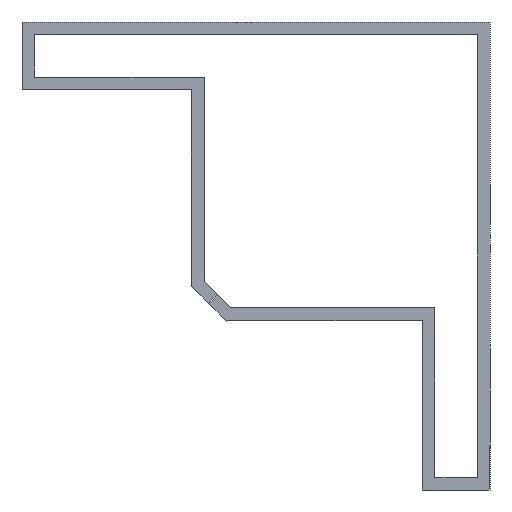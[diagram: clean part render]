
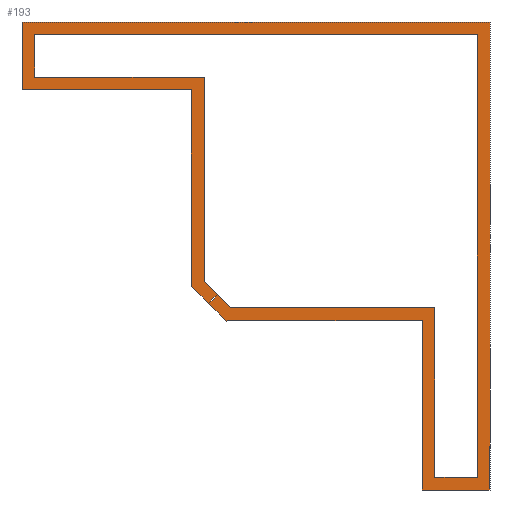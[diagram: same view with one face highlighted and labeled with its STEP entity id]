
A CAD part, front view. The second image highlights one B-rep face of the part: STEP entity #193.
In plain terms, the highlighted planar face has unit normal (0, -1, 0).
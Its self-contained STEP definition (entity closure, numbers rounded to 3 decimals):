
#86 = EDGE_CURVE('',#87,#89,#91,.T.);
#87 = VERTEX_POINT('',#88);
#88 = CARTESIAN_POINT('',(-31.7,0.,-28.081));
#89 = VERTEX_POINT('',#90);
#90 = CARTESIAN_POINT('',(-31.7,0.,-7.2));
#91 = LINE('',#92,#93);
#92 = CARTESIAN_POINT('',(-31.7,0.,-28.081));
#93 = VECTOR('',#94,1.);
#94 = DIRECTION('',(0.,0.,1.));
#141 = VERTEX_POINT('',#142);
#142 = CARTESIAN_POINT('',(-30.35,0.,-27.522));
#159 = VERTEX_POINT('',#160);
#160 = CARTESIAN_POINT('',(-30.35,0.,-5.85));
#166 = EDGE_CURVE('',#159,#141,#167,.T.);
#167 = LINE('',#168,#169);
#168 = CARTESIAN_POINT('',(-30.35,0.,-5.85));
#169 = VECTOR('',#170,1.);
#170 = DIRECTION('',(0.,0.,-1.));
#193 = ADVANCED_FACE('',(#194),#362,.T.);
#194 = FACE_BOUND('',#195,.T.);
#195 = EDGE_LOOP('',(#196,#206,#212,#213,#221,#229,#237,#245,#253,#261,
    #269,#277,#285,#293,#301,#309,#317,#325,#333,#341,#349,#355,#356));
#196 = ORIENTED_EDGE('',*,*,#197,.F.);
#197 = EDGE_CURVE('',#198,#200,#202,.T.);
#198 = VERTEX_POINT('',#199);
#199 = CARTESIAN_POINT('',(-28.953,0.,-28.918));
#200 = VERTEX_POINT('',#201);
#201 = CARTESIAN_POINT('',(-29.908,0.,-29.873));
#202 = LINE('',#203,#204);
#203 = CARTESIAN_POINT('',(-29.908,0.,-29.873));
#204 = VECTOR('',#205,1.);
#205 = DIRECTION('',(-0.707,-0.,-0.707));
#206 = ORIENTED_EDGE('',*,*,#207,.T.);
#207 = EDGE_CURVE('',#198,#141,#208,.T.);
#208 = LINE('',#209,#210);
#209 = CARTESIAN_POINT('',(-28.953,0.,-28.918));
#210 = VECTOR('',#211,1.);
#211 = DIRECTION('',(-0.707,0.,0.707));
#212 = ORIENTED_EDGE('',*,*,#166,.F.);
#213 = ORIENTED_EDGE('',*,*,#214,.T.);
#214 = EDGE_CURVE('',#159,#215,#217,.T.);
#215 = VERTEX_POINT('',#216);
#216 = CARTESIAN_POINT('',(-48.35,0.,-5.85));
#217 = LINE('',#218,#219);
#218 = CARTESIAN_POINT('',(-30.35,0.,-5.85));
#219 = VECTOR('',#220,1.);
#220 = DIRECTION('',(-1.,0.,0.));
#221 = ORIENTED_EDGE('',*,*,#222,.T.);
#222 = EDGE_CURVE('',#215,#223,#225,.T.);
#223 = VERTEX_POINT('',#224);
#224 = CARTESIAN_POINT('',(-48.35,0.,-1.35));
#225 = LINE('',#226,#227);
#226 = CARTESIAN_POINT('',(-48.35,0.,-5.85));
#227 = VECTOR('',#228,1.);
#228 = DIRECTION('',(0.,0.,1.));
#229 = ORIENTED_EDGE('',*,*,#230,.T.);
#230 = EDGE_CURVE('',#223,#231,#233,.T.);
#231 = VERTEX_POINT('',#232);
#232 = CARTESIAN_POINT('',(-1.35,0.,-1.35));
#233 = LINE('',#234,#235);
#234 = CARTESIAN_POINT('',(-48.35,0.,-1.35));
#235 = VECTOR('',#236,1.);
#236 = DIRECTION('',(1.,0.,0.));
#237 = ORIENTED_EDGE('',*,*,#238,.T.);
#238 = EDGE_CURVE('',#231,#239,#241,.T.);
#239 = VERTEX_POINT('',#240);
#240 = CARTESIAN_POINT('',(-1.35,0.,-48.35));
#241 = LINE('',#242,#243);
#242 = CARTESIAN_POINT('',(-1.35,0.,-1.35));
#243 = VECTOR('',#244,1.);
#244 = DIRECTION('',(0.,0.,-1.));
#245 = ORIENTED_EDGE('',*,*,#246,.T.);
#246 = EDGE_CURVE('',#239,#247,#249,.T.);
#247 = VERTEX_POINT('',#248);
#248 = CARTESIAN_POINT('',(-5.85,0.,-48.35));
#249 = LINE('',#250,#251);
#250 = CARTESIAN_POINT('',(-1.35,0.,-48.35));
#251 = VECTOR('',#252,1.);
#252 = DIRECTION('',(-1.,0.,0.));
#253 = ORIENTED_EDGE('',*,*,#254,.T.);
#254 = EDGE_CURVE('',#247,#255,#257,.T.);
#255 = VERTEX_POINT('',#256);
#256 = CARTESIAN_POINT('',(-5.85,0.,-30.35));
#257 = LINE('',#258,#259);
#258 = CARTESIAN_POINT('',(-5.85,0.,-48.35));
#259 = VECTOR('',#260,1.);
#260 = DIRECTION('',(0.,0.,1.));
#261 = ORIENTED_EDGE('',*,*,#262,.T.);
#262 = EDGE_CURVE('',#255,#263,#265,.T.);
#263 = VERTEX_POINT('',#264);
#264 = CARTESIAN_POINT('',(-27.522,0.,-30.35));
#265 = LINE('',#266,#267);
#266 = CARTESIAN_POINT('',(-5.85,0.,-30.35));
#267 = VECTOR('',#268,1.);
#268 = DIRECTION('',(-1.,0.,0.));
#269 = ORIENTED_EDGE('',*,*,#270,.T.);
#270 = EDGE_CURVE('',#263,#271,#273,.T.);
#271 = VERTEX_POINT('',#272);
#272 = CARTESIAN_POINT('',(-28.918,0.,-28.953));
#273 = LINE('',#274,#275);
#274 = CARTESIAN_POINT('',(-27.522,0.,-30.35));
#275 = VECTOR('',#276,1.);
#276 = DIRECTION('',(-0.707,0.,0.707));
#277 = ORIENTED_EDGE('',*,*,#278,.F.);
#278 = EDGE_CURVE('',#279,#271,#281,.T.);
#279 = VERTEX_POINT('',#280);
#280 = CARTESIAN_POINT('',(-29.873,0.,-29.908));
#281 = LINE('',#282,#283);
#282 = CARTESIAN_POINT('',(-29.873,0.,-29.908));
#283 = VECTOR('',#284,1.);
#284 = DIRECTION('',(0.707,0.,0.707));
#285 = ORIENTED_EDGE('',*,*,#286,.T.);
#286 = EDGE_CURVE('',#279,#287,#289,.T.);
#287 = VERTEX_POINT('',#288);
#288 = CARTESIAN_POINT('',(-27.996,0.,-31.784));
#289 = LINE('',#290,#291);
#290 = CARTESIAN_POINT('',(-29.873,0.,-29.908));
#291 = VECTOR('',#292,1.);
#292 = DIRECTION('',(0.707,0.,-0.707));
#293 = ORIENTED_EDGE('',*,*,#294,.F.);
#294 = EDGE_CURVE('',#295,#287,#297,.T.);
#295 = VERTEX_POINT('',#296);
#296 = CARTESIAN_POINT('',(-27.85,0.,-31.7));
#297 = LINE('',#298,#299);
#298 = CARTESIAN_POINT('',(-21.303,0.,-27.92));
#299 = VECTOR('',#300,1.);
#300 = DIRECTION('',(-0.866,-0.,-0.5));
#301 = ORIENTED_EDGE('',*,*,#302,.T.);
#302 = EDGE_CURVE('',#295,#303,#305,.T.);
#303 = VERTEX_POINT('',#304);
#304 = CARTESIAN_POINT('',(-7.2,0.,-31.7));
#305 = LINE('',#306,#307);
#306 = CARTESIAN_POINT('',(-27.85,0.,-31.7));
#307 = VECTOR('',#308,1.);
#308 = DIRECTION('',(1.,0.,0.));
#309 = ORIENTED_EDGE('',*,*,#310,.T.);
#310 = EDGE_CURVE('',#303,#311,#313,.T.);
#311 = VERTEX_POINT('',#312);
#312 = CARTESIAN_POINT('',(-7.2,0.,-49.7));
#313 = LINE('',#314,#315);
#314 = CARTESIAN_POINT('',(-7.2,0.,-31.7));
#315 = VECTOR('',#316,1.);
#316 = DIRECTION('',(0.,0.,-1.));
#317 = ORIENTED_EDGE('',*,*,#318,.T.);
#318 = EDGE_CURVE('',#311,#319,#321,.T.);
#319 = VERTEX_POINT('',#320);
#320 = CARTESIAN_POINT('',(0.,0.,-49.7));
#321 = LINE('',#322,#323);
#322 = CARTESIAN_POINT('',(-7.2,0.,-49.7));
#323 = VECTOR('',#324,1.);
#324 = DIRECTION('',(1.,0.,0.));
#325 = ORIENTED_EDGE('',*,*,#326,.T.);
#326 = EDGE_CURVE('',#319,#327,#329,.T.);
#327 = VERTEX_POINT('',#328);
#328 = CARTESIAN_POINT('',(0.,0.,0.));
#329 = LINE('',#330,#331);
#330 = CARTESIAN_POINT('',(0.,0.,-49.7));
#331 = VECTOR('',#332,1.);
#332 = DIRECTION('',(0.,0.,1.));
#333 = ORIENTED_EDGE('',*,*,#334,.T.);
#334 = EDGE_CURVE('',#327,#335,#337,.T.);
#335 = VERTEX_POINT('',#336);
#336 = CARTESIAN_POINT('',(-49.7,0.,0.));
#337 = LINE('',#338,#339);
#338 = CARTESIAN_POINT('',(0.,0.,0.));
#339 = VECTOR('',#340,1.);
#340 = DIRECTION('',(-1.,0.,0.));
#341 = ORIENTED_EDGE('',*,*,#342,.T.);
#342 = EDGE_CURVE('',#335,#343,#345,.T.);
#343 = VERTEX_POINT('',#344);
#344 = CARTESIAN_POINT('',(-49.7,0.,-7.2));
#345 = LINE('',#346,#347);
#346 = CARTESIAN_POINT('',(-49.7,0.,0.));
#347 = VECTOR('',#348,1.);
#348 = DIRECTION('',(0.,0.,-1.));
#349 = ORIENTED_EDGE('',*,*,#350,.T.);
#350 = EDGE_CURVE('',#343,#89,#351,.T.);
#351 = LINE('',#352,#353);
#352 = CARTESIAN_POINT('',(-49.7,0.,-7.2));
#353 = VECTOR('',#354,1.);
#354 = DIRECTION('',(1.,0.,0.));
#355 = ORIENTED_EDGE('',*,*,#86,.F.);
#356 = ORIENTED_EDGE('',*,*,#357,.T.);
#357 = EDGE_CURVE('',#87,#200,#358,.T.);
#358 = LINE('',#359,#360);
#359 = CARTESIAN_POINT('',(-31.7,0.,-28.081));
#360 = VECTOR('',#361,1.);
#361 = DIRECTION('',(0.707,0.,-0.707));
#362 = PLANE('',#363);
#363 = AXIS2_PLACEMENT_3D('',#364,#365,#366);
#364 = CARTESIAN_POINT('',(0.,0.,-49.7));
#365 = DIRECTION('',(0.,-1.,0.));
#366 = DIRECTION('',(0.,-0.,-1.));
